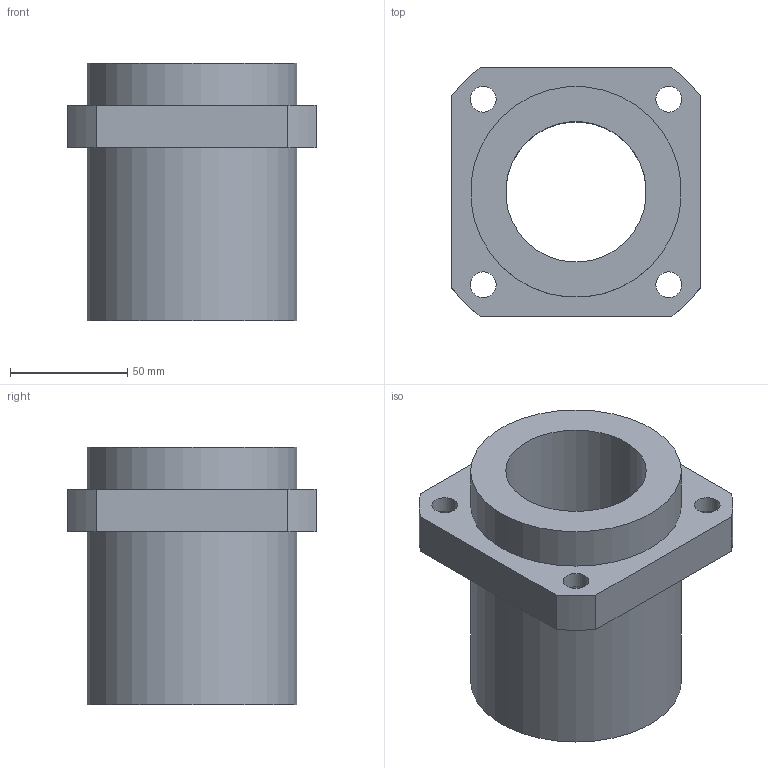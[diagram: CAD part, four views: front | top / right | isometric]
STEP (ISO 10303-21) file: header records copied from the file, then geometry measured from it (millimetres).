
FILE_DESCRIPTION(/* description */ (''),/* implementation_level */ '2;1');
FILE_NAME(/* name */ 'LMKP60UU',/* time_stamp */ '2019-07-10T08:52:18+02:00',/* author */ ('VĂ©gh MĂˇtĂ©'),/* organization */ ('Bearing Kft'),/* preprocessor_version */ 'ST-DEVELOPER v16.7',/* originating_system */ 'DEX',/* authorisation */ $);
FILE_SCHEMA (('AUTOMOTIVE_DESIGN {1 0 10303 214 3 1 1}'));
Length unit declared in the file: millimetre
Products named in the file (1): LMKP60UU
Bounding box: 106 x 106 x 110 mm (x, y, z)
Volume: 459049.2 mm3; surface area: 72749.1 mm2
Topology: 1 solids, 1 shells, 333 faces, 832 edges, 556 vertices
Faces by surface type: plane 254, bspline 62, cylinder 17
Full cylindrical faces by diameter (mm): 11 x4, 17 x4, 60 x1, 90 x2
Entity records: 12963 total; most frequent: CARTESIAN_POINT 5405, ORIENTED_EDGE 1626, DIRECTION 1267, EDGE_CURVE 813, LINE 655, VECTOR 655, VERTEX_POINT 552, EDGE_LOOP 413
